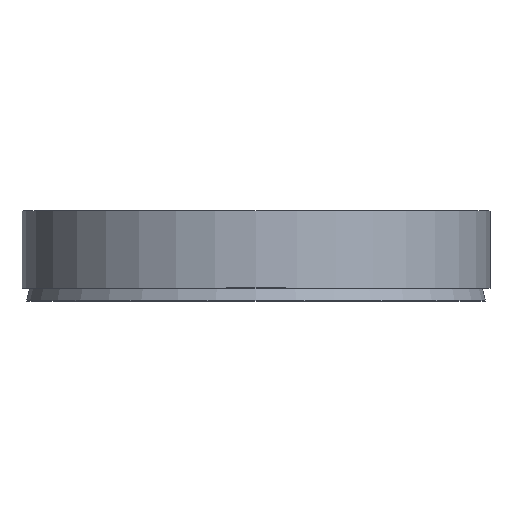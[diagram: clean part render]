
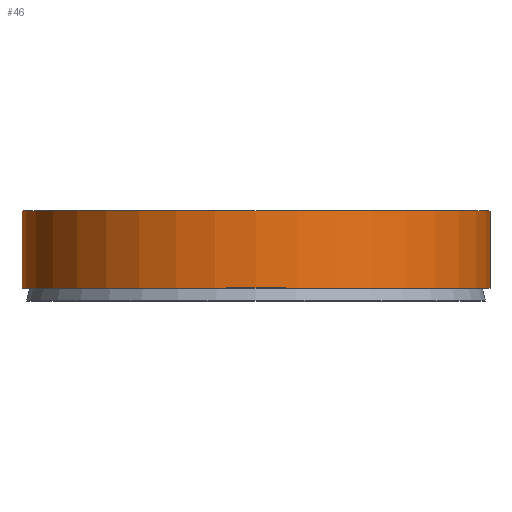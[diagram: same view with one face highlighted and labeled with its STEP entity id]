
A CAD part, top view. The second image highlights one B-rep face of the part: STEP entity #46.
In plain terms, the highlighted cylindrical face has radius 26 mm (diameter 52 mm), a full revolution.
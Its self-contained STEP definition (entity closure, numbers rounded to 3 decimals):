
#46 = ADVANCED_FACE( '', ( #93, #94 ), #95, .T. );
#93 = FACE_OUTER_BOUND( '', #132, .T. );
#94 = FACE_OUTER_BOUND( '', #133, .T. );
#95 = CYLINDRICAL_SURFACE( '', #134, 26. );
#132 = EDGE_LOOP( '', ( #179 ) );
#133 = EDGE_LOOP( '', ( #180 ) );
#134 = AXIS2_PLACEMENT_3D( '', #181, #182, #183 );
#179 = ORIENTED_EDGE( '', *, *, #189, .F. );
#180 = ORIENTED_EDGE( '', *, *, #198, .T. );
#181 = CARTESIAN_POINT( '', ( 0., -60., 0. ) );
#182 = DIRECTION( '', ( 0., 1., 0. ) );
#183 = DIRECTION( '', ( 0., 0., -1. ) );
#189 = EDGE_CURVE( '', #208, #208, #209, .T. );
#198 = EDGE_CURVE( '', #221, #221, #222, .T. );
#208 = VERTEX_POINT( '', #232 );
#209 = CIRCLE( '', #233, 26. );
#221 = VERTEX_POINT( '', #245 );
#222 = CIRCLE( '', #246, 26. );
#232 = CARTESIAN_POINT( '', ( 0., 1.4, -26. ) );
#233 = AXIS2_PLACEMENT_3D( '', #257, #258, #259 );
#245 = CARTESIAN_POINT( '', ( 0., 10., -26. ) );
#246 = AXIS2_PLACEMENT_3D( '', #269, #270, #271 );
#257 = CARTESIAN_POINT( '', ( 0., 1.4, 0. ) );
#258 = DIRECTION( '', ( 0., -1., 0. ) );
#259 = DIRECTION( '', ( 0., 0., -1. ) );
#269 = CARTESIAN_POINT( '', ( 0., 10., 0. ) );
#270 = DIRECTION( '', ( 0., -1., 0. ) );
#271 = DIRECTION( '', ( 0., 0., -1. ) );
